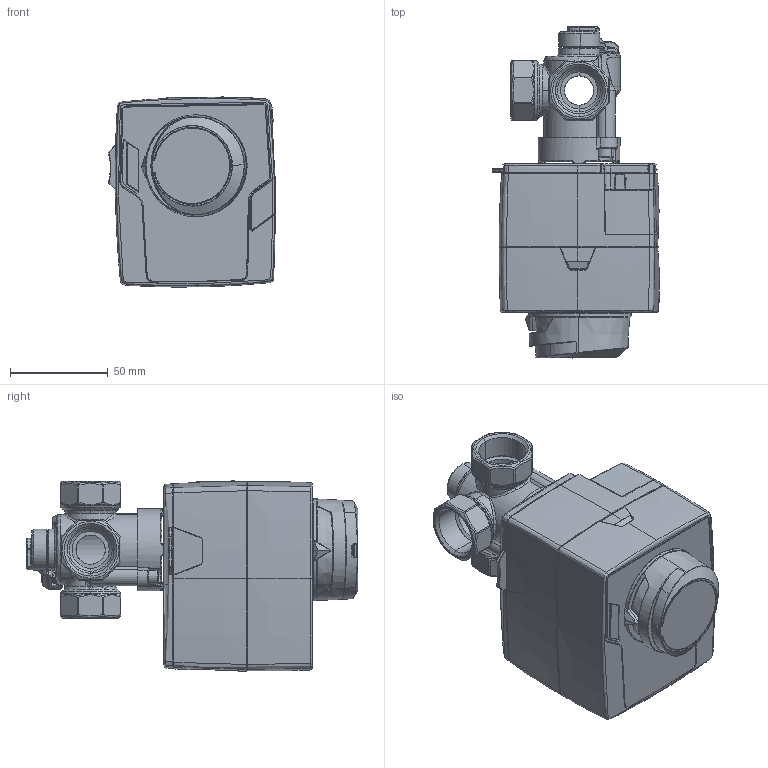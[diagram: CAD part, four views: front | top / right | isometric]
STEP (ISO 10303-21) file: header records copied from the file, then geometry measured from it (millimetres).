
FILE_DESCRIPTION (( 'STEP AP214' ), '1' );
FILE_NAME ('1338220.STEP', '2023-10-20T12:45:25', ( '' ), ( '' ), 'SwSTEP 2.0', 'SolidWorks 2022', '' );
FILE_SCHEMA (( 'AUTOMOTIVE_DESIGN' ));
Length unit declared in the file: millimetre
Products named in the file (23): Schild DN20_DN25; M9120001; M9120006; 05 01 001120_Aufnahmesockel DN20_DN25; M9120002; M9120011; 05 01 001101_Geh_X_E4use 3-W ARV-Vario DN20; M9120003_REV2; 709 000 0021_W_X_FCplast-Linsenkopfschraube 3,5x14 T1_0_0; M9120007; 900084 0517_Zylinderschr. ISO 4762-M5x16; 900084 0517_Zylinderschr. ISO 4762-M5x16_2; 05 01 001117_Verstellhebel DN20_DN25; 3-Wege-Mischer ARV-Vario DN20_Baugruppe; M9120004_REV2; M9120005; 801 000 0294_O-Ring _X_F823,0x3,0mm EPDM; M9120008; KA22x6; Modulating ARM; 1338220; M9120010; M9120009
Assembly tree (25 placements, depth 3):
  1338220
    3-Wege-Mischer ARV-Vario DN20_Baugruppe
      709 000 0021_W_X_FCplast-Linsenkopfschraube 3,5x14 T1_0_0
      900084 0517_Zylinderschr. ISO 4762-M5x16
      900084 0517_Zylinderschr. ISO 4762-M5x16_2
      Schild DN20_DN25
      801 000 0294_O-Ring _X_F823,0x3,0mm EPDM
      05 01 001120_Aufnahmesockel DN20_DN25
      05 01 001117_Verstellhebel DN20_DN25
      05 01 001101_Geh_X_E4use 3-W ARV-Vario DN20
    Modulating ARM
      KA22x6  x4
      M9120001
      M9120002
      M9120003_REV2
      M9120004_REV2
      M9120005
      M9120006
      M9120007
      M9120008
      M9120009
      M9120010
      M9120011
Bounding box: 85.51 x 169.78 x 97.25 mm (x, y, z)
Volume: 226672.9 mm3; surface area: 193345.4 mm2
Topology: 23 solids, 25 shells, 9338 faces, 24566 edges, 14077 vertices
Faces by surface type: bspline 4382, cylinder 2076, plane 1797, cone 1019, torus 64
Entity records: 637350 total; most frequent: CARTESIAN_POINT 350146, ORIENTED_EDGE 46178, DIRECTION 27252, EDGE_CURVE 23089, VERTEX_POINT 13968, AXIS2_PLACEMENT_3D 10406, B_SPLINE_CURVE_WITH_KNOTS 10178, EDGE_LOOP 9501
